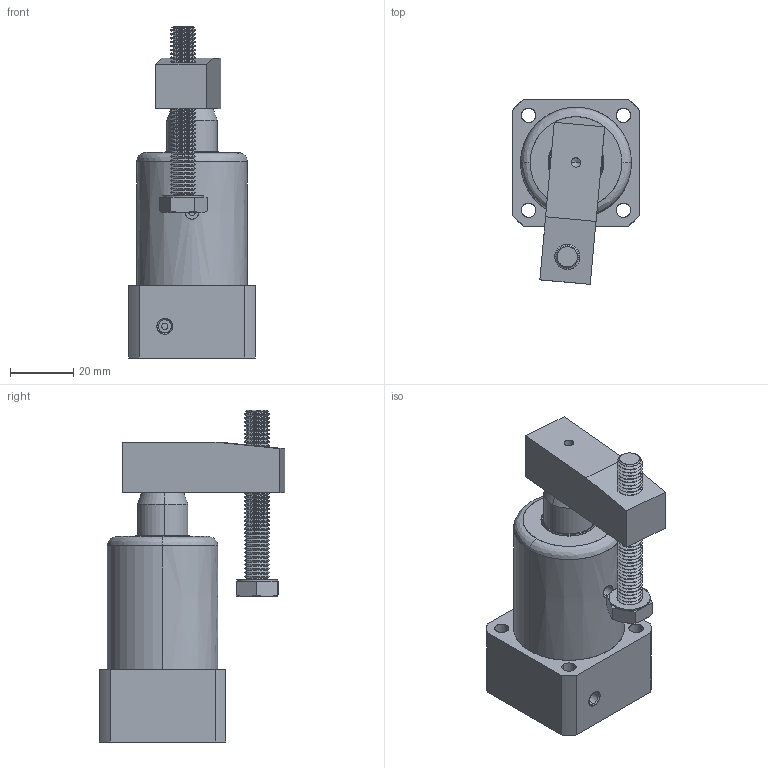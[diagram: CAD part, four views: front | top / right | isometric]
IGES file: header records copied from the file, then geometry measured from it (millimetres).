
Start section: SolidWorks IGES file using analytic representation for surfaces
Global section: file name: C:\Users\cagdas\Desktop\AS1_25.IGS; native system: SolidWorks 2018; preprocessor: SolidWorks 2018; author: cagdas; date: 181210.113405; units: millimetre
Bounding box: 40 x 58.57 x 104.99 mm (x, y, z)
Surface area: 37345.3 mm2 (no closed solid volume)
Topology: 0 solids, 0 shells, 763 faces, 7281 edges, 7257 vertices
Faces by surface type: revolution 492, bspline 271
